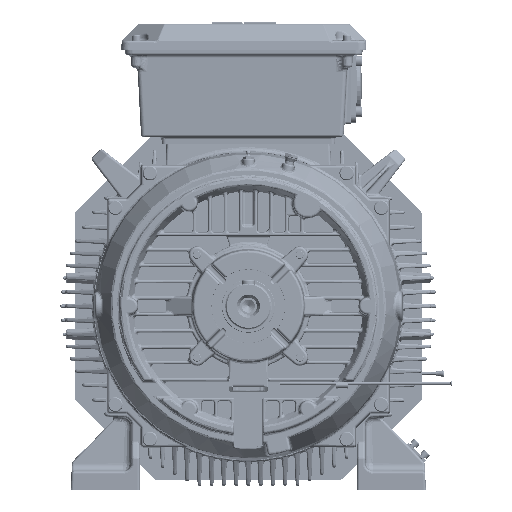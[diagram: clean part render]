
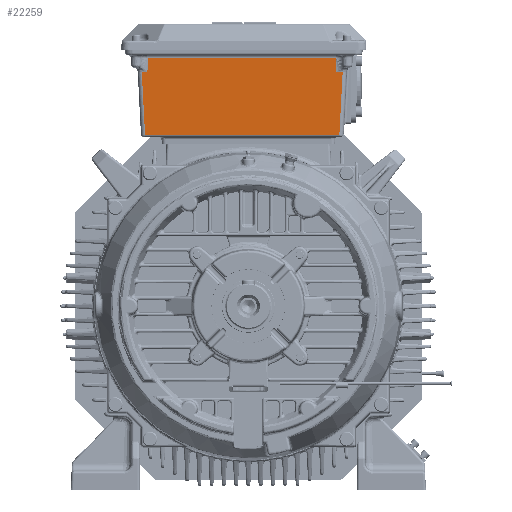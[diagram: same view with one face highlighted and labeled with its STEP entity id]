
A CAD part, front view. The second image highlights one B-rep face of the part: STEP entity #22259.
In plain terms, the highlighted planar face has unit normal (0, -0.999, -0.052).
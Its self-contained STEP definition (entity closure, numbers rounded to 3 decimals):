
#22259=ADVANCED_FACE('',(#32265),#24350,.T.);
#24350=PLANE('',#147136);
#32265=FACE_OUTER_BOUND('',#40996,.T.);
#40996=EDGE_LOOP('',(#91982,#91983,#91984,#91985,#91986,#91987,#91988,#91989));
#54872=B_SPLINE_CURVE_WITH_KNOTS('',3,(#318540,#318541,#318542,#318543,
#318544,#318545,#318546),.UNSPECIFIED.,.F.,.F.,(4,1,1,1,4),(0.,0.235,
0.277,0.319,1.),.UNSPECIFIED.);
#54879=B_SPLINE_CURVE_WITH_KNOTS('',3,(#318747,#318748,#318749,#318750,
#318751,#318752,#318753),.UNSPECIFIED.,.F.,.F.,(4,1,1,1,4),(0.,0.681,
0.723,0.765,1.),.UNSPECIFIED.);
#91982=ORIENTED_EDGE('',*,*,#124971,.T.);
#91983=ORIENTED_EDGE('',*,*,#124970,.F.);
#91984=ORIENTED_EDGE('',*,*,#124736,.T.);
#91985=ORIENTED_EDGE('',*,*,#124739,.T.);
#91986=ORIENTED_EDGE('',*,*,#124864,.F.);
#91987=ORIENTED_EDGE('',*,*,#124754,.T.);
#91988=ORIENTED_EDGE('',*,*,#124748,.T.);
#91989=ORIENTED_EDGE('',*,*,#124972,.F.);
#105526=VERTEX_POINT('',#318355);
#105530=VERTEX_POINT('',#318502);
#105531=VERTEX_POINT('',#318539);
#105537=VERTEX_POINT('',#318622);
#105539=VERTEX_POINT('',#318668);
#105542=VERTEX_POINT('',#318719);
#105664=VERTEX_POINT('',#320925);
#105665=VERTEX_POINT('',#320929);
#124736=EDGE_CURVE('',#105526,#105530,#131251,.T.);
#124739=EDGE_CURVE('',#105530,#105531,#54872,.T.);
#124748=EDGE_CURVE('',#105537,#105539,#131252,.T.);
#124754=EDGE_CURVE('',#105542,#105537,#54879,.T.);
#124864=EDGE_CURVE('',#105542,#105531,#131261,.T.);
#124970=EDGE_CURVE('',#105526,#105664,#131303,.T.);
#124971=EDGE_CURVE('',#105665,#105664,#131304,.T.);
#124972=EDGE_CURVE('',#105665,#105539,#131305,.T.);
#131251=LINE('',#318503,#136705);
#131252=LINE('',#318669,#136706);
#131261=LINE('',#320162,#136715);
#131303=LINE('',#320926,#136757);
#131304=LINE('',#320928,#136758);
#131305=LINE('',#320930,#136759);
#136705=VECTOR('',#172352,1.);
#136706=VECTOR('',#172365,1.);
#136715=VECTOR('',#172498,1.);
#136757=VECTOR('',#172678,1.);
#136758=VECTOR('',#172681,1.);
#136759=VECTOR('',#172682,1.);
#147136=AXIS2_PLACEMENT_3D('',#320931,#172683,#172684);
#172352=DIRECTION('',(-1.,0.,0.));
#172365=DIRECTION('',(-1.,0.,0.));
#172498=DIRECTION('',(1.,0.,0.));
#172678=DIRECTION('',(-0.052,0.052,-0.997));
#172681=DIRECTION('',(1.,0.,0.));
#172682=DIRECTION('',(-0.052,-0.052,0.997));
#172683=DIRECTION('',(0.,-0.999,-0.052));
#172684=DIRECTION('',(-1.,0.,0.));
#318355=CARTESIAN_POINT('',(115.399,2.308,286.314));
#318502=CARTESIAN_POINT('',(107.484,2.308,286.314));
#318503=CARTESIAN_POINT('',(115.399,2.308,286.314));
#318539=CARTESIAN_POINT('',(106.973,1.373,304.157));
#318540=CARTESIAN_POINT('',(107.484,2.308,286.314));
#318541=CARTESIAN_POINT('',(107.443,2.235,287.709));
#318542=CARTESIAN_POINT('',(107.395,2.149,289.355));
#318543=CARTESIAN_POINT('',(107.341,2.049,291.25));
#318544=CARTESIAN_POINT('',(107.209,1.811,295.802));
#318545=CARTESIAN_POINT('',(107.087,1.585,300.105));
#318546=CARTESIAN_POINT('',(106.973,1.373,304.157));
#318622=CARTESIAN_POINT('',(-123.484,2.308,286.314));
#318668=CARTESIAN_POINT('',(-130.399,2.308,286.314));
#318669=CARTESIAN_POINT('',(-123.484,2.308,286.314));
#318719=CARTESIAN_POINT('',(-122.973,1.373,304.157));
#318747=CARTESIAN_POINT('',(-122.973,1.373,304.157));
#318748=CARTESIAN_POINT('',(-123.087,1.585,300.105));
#318749=CARTESIAN_POINT('',(-123.209,1.811,295.802));
#318750=CARTESIAN_POINT('',(-123.341,2.049,291.25));
#318751=CARTESIAN_POINT('',(-123.395,2.149,289.355));
#318752=CARTESIAN_POINT('',(-123.443,2.235,287.709));
#318753=CARTESIAN_POINT('',(-123.484,2.308,286.314));
#320162=CARTESIAN_POINT('',(-122.973,1.373,304.157));
#320925=CARTESIAN_POINT('',(111.391,6.316,209.843));
#320926=CARTESIAN_POINT('',(115.399,2.308,286.314));
#320928=CARTESIAN_POINT('',(-126.391,6.316,209.843));
#320929=CARTESIAN_POINT('',(-126.391,6.316,209.843));
#320930=CARTESIAN_POINT('',(-126.391,6.316,209.843));
#320931=CARTESIAN_POINT('',(-137.132,6.465,207.));
